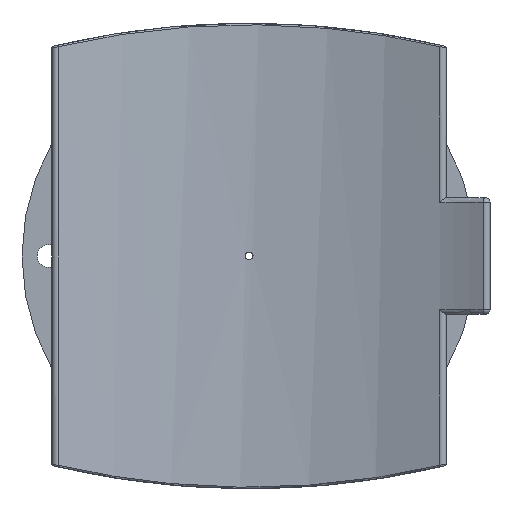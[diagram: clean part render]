
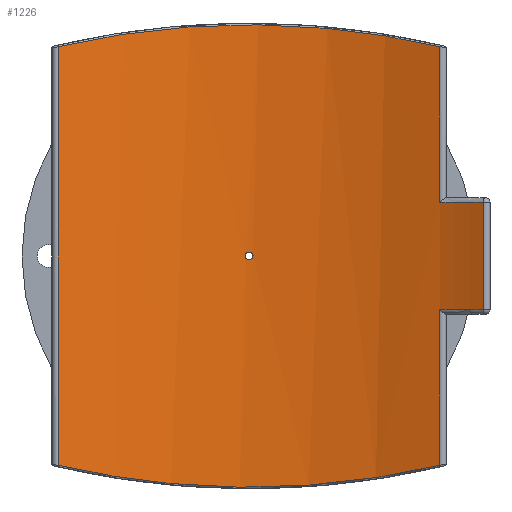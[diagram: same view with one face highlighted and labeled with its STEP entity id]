
A CAD part, front view. The second image highlights one B-rep face of the part: STEP entity #1226.
In plain terms, the highlighted cylindrical face has radius 600 mm (diameter 1200 mm), a partial arc.
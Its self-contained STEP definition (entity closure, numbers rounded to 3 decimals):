
#86=CIRCLE('',#1319,600.);
#87=CIRCLE('',#1320,600.);
#182=LINE('',#2867,#217);
#183=LINE('',#2883,#218);
#184=LINE('',#2885,#219);
#185=LINE('',#2889,#220);
#217=VECTOR('',#1537,204.004);
#218=VECTOR('',#1542,548.508);
#219=VECTOR('',#1543,204.004);
#220=VECTOR('',#1546,140.5);
#237=FACE_BOUND('',#420,.T.);
#332=FACE_OUTER_BOUND('',#419,.T.);
#419=EDGE_LOOP('',(#967,#968,#969,#970,#971,#972,#973,#974));
#420=EDGE_LOOP('',(#975));
#554=B_SPLINE_CURVE_WITH_KNOTS('',3,(#2246,#2247,#2248,#2249,#2250,#2251,
#2252,#2253,#2254,#2255),.UNSPECIFIED.,.F.,.F.,(4,1,1,1,1,1,1,4),(-52.116,
-44.671,-37.226,-29.781,-22.336,
-14.89,-7.445,0.),
 .UNSPECIFIED.);
#569=B_SPLINE_CURVE_WITH_KNOTS('',3,(#2662,#2663,#2664,#2665,#2666,#2667,
#2668,#2669,#2670,#2671),.UNSPECIFIED.,.F.,.F.,(4,1,1,1,1,1,1,4),(-52.116,
-44.671,-37.226,-29.781,-22.336,
-14.89,-7.445,0.),
 .UNSPECIFIED.);
#579=B_SPLINE_CURVE_WITH_KNOTS('',3,(#2892,#2893,#2894,#2895,#2896,#2897,
#2898,#2899,#2900,#2901,#2902,#2903,#2904,#2905,#2906,#2907,#2908,#2909,
#2910,#2911,#2912,#2913,#2914,#2915,#2916,#2917,#2918,#2919,#2920,#2921,
#2922,#2923,#2924,#2925),.UNSPECIFIED.,.T.,.F.,(4,2,2,2,2,2,2,2,2,2,2,2,
2,2,2,2,4),(0.,0.196,0.392,0.588,0.784,
0.979,1.175,1.371,1.567,1.763,
1.959,2.155,2.351,2.546,2.742,
2.938,3.134),.UNSPECIFIED.);
#599=VERTEX_POINT('',#2167);
#601=VERTEX_POINT('',#2244);
#617=VERTEX_POINT('',#2583);
#619=VERTEX_POINT('',#2660);
#628=VERTEX_POINT('',#2866);
#630=VERTEX_POINT('',#2884);
#631=VERTEX_POINT('',#2886);
#632=VERTEX_POINT('',#2888);
#633=VERTEX_POINT('',#2891);
#714=EDGE_CURVE('',#601,#599,#554,.T.);
#746=EDGE_CURVE('',#619,#617,#569,.T.);
#763=EDGE_CURVE('',#599,#628,#182,.T.);
#766=EDGE_CURVE('',#617,#601,#183,.T.);
#767=EDGE_CURVE('',#630,#619,#184,.T.);
#768=EDGE_CURVE('',#631,#630,#86,.T.);
#769=EDGE_CURVE('',#632,#631,#185,.T.);
#770=EDGE_CURVE('',#628,#632,#87,.T.);
#771=EDGE_CURVE('',#633,#633,#579,.T.);
#967=ORIENTED_EDGE('',*,*,#714,.F.);
#968=ORIENTED_EDGE('',*,*,#766,.F.);
#969=ORIENTED_EDGE('',*,*,#746,.F.);
#970=ORIENTED_EDGE('',*,*,#767,.F.);
#971=ORIENTED_EDGE('',*,*,#768,.F.);
#972=ORIENTED_EDGE('',*,*,#769,.F.);
#973=ORIENTED_EDGE('',*,*,#770,.F.);
#974=ORIENTED_EDGE('',*,*,#763,.F.);
#975=ORIENTED_EDGE('',*,*,#771,.T.);
#1167=CYLINDRICAL_SURFACE('',#1318,600.);
#1226=ADVANCED_FACE('',(#332,#237),#1167,.F.);
#1318=AXIS2_PLACEMENT_3D('',#2882,#1540,#1541);
#1319=AXIS2_PLACEMENT_3D('',#2887,#1544,#1545);
#1320=AXIS2_PLACEMENT_3D('',#2890,#1547,#1548);
#1537=DIRECTION('',(0.,0.,-1.));
#1540=DIRECTION('center_axis',(0.,0.,1.));
#1541=DIRECTION('ref_axis',(-1.,0.,0.));
#1542=DIRECTION('',(0.,0.,1.));
#1543=DIRECTION('',(0.,0.,-1.));
#1544=DIRECTION('center_axis',(0.,0.,1.));
#1545=DIRECTION('ref_axis',(0.479,0.878,0.));
#1546=DIRECTION('',(0.,0.,-1.));
#1547=DIRECTION('center_axis',(0.,0.,-1.));
#1548=DIRECTION('ref_axis',(0.479,0.878,0.));
#2167=CARTESIAN_POINT('',(249.802,545.526,274.254));
#2244=CARTESIAN_POINT('',(-249.802,545.526,274.254));
#2246=CARTESIAN_POINT('Ctrl Pts',(-249.802,545.526,274.254));
#2247=CARTESIAN_POINT('Ctrl Pts',(-227.799,555.602,279.385));
#2248=CARTESIAN_POINT('Ctrl Pts',(-182.358,573.185,288.549));
#2249=CARTESIAN_POINT('Ctrl Pts',(-110.846,591.218,298.215));
#2250=CARTESIAN_POINT('Ctrl Pts',(-37.195,600.381,303.207));
#2251=CARTESIAN_POINT('Ctrl Pts',(37.195,600.382,303.208));
#2252=CARTESIAN_POINT('Ctrl Pts',(110.845,591.217,298.214));
#2253=CARTESIAN_POINT('Ctrl Pts',(182.358,573.185,288.549));
#2254=CARTESIAN_POINT('Ctrl Pts',(227.799,555.602,279.385));
#2255=CARTESIAN_POINT('Ctrl Pts',(249.802,545.526,274.254));
#2583=CARTESIAN_POINT('',(-249.802,545.526,-274.254));
#2660=CARTESIAN_POINT('',(249.802,545.526,-274.254));
#2662=CARTESIAN_POINT('Ctrl Pts',(249.802,545.526,-274.254));
#2663=CARTESIAN_POINT('Ctrl Pts',(227.799,555.602,-279.385));
#2664=CARTESIAN_POINT('Ctrl Pts',(182.358,573.185,-288.549));
#2665=CARTESIAN_POINT('Ctrl Pts',(110.846,591.217,-298.214));
#2666=CARTESIAN_POINT('Ctrl Pts',(37.195,600.382,-303.208));
#2667=CARTESIAN_POINT('Ctrl Pts',(-37.195,600.381,-303.207));
#2668=CARTESIAN_POINT('Ctrl Pts',(-110.846,591.218,-298.215));
#2669=CARTESIAN_POINT('Ctrl Pts',(-182.358,573.185,-288.549));
#2670=CARTESIAN_POINT('Ctrl Pts',(-227.799,555.602,-279.385));
#2671=CARTESIAN_POINT('Ctrl Pts',(-249.802,545.526,-274.254));
#2866=CARTESIAN_POINT('',(249.802,545.526,70.25));
#2867=CARTESIAN_POINT('',(249.802,545.526,0.));
#2882=CARTESIAN_POINT('Origin',(0.,0.,0.));
#2883=CARTESIAN_POINT('',(-249.802,545.526,0.));
#2884=CARTESIAN_POINT('',(249.802,545.526,-70.25));
#2885=CARTESIAN_POINT('',(249.802,545.526,0.));
#2886=CARTESIAN_POINT('',(306.634,515.728,-70.25));
#2887=CARTESIAN_POINT('Origin',(0.,0.,-70.25));
#2888=CARTESIAN_POINT('',(306.634,515.728,70.25));
#2889=CARTESIAN_POINT('',(306.634,515.728,0.));
#2890=CARTESIAN_POINT('Origin',(0.,0.,70.25));
#2891=CARTESIAN_POINT('',(5.2,599.977,0.));
#2892=CARTESIAN_POINT('Ctrl Pts',(5.2,599.977,0.));
#2893=CARTESIAN_POINT('Ctrl Pts',(5.2,599.977,-0.653));
#2894=CARTESIAN_POINT('Ctrl Pts',(5.07,599.979,-1.349));
#2895=CARTESIAN_POINT('Ctrl Pts',(4.539,599.983,-2.631));
#2896=CARTESIAN_POINT('Ctrl Pts',(4.139,599.986,-3.215));
#2897=CARTESIAN_POINT('Ctrl Pts',(3.215,599.992,-4.139));
#2898=CARTESIAN_POINT('Ctrl Pts',(2.631,599.995,-4.539));
#2899=CARTESIAN_POINT('Ctrl Pts',(1.349,599.999,-5.07));
#2900=CARTESIAN_POINT('Ctrl Pts',(0.653,600.,-5.2));
#2901=CARTESIAN_POINT('Ctrl Pts',(-0.653,600.,-5.2));
#2902=CARTESIAN_POINT('Ctrl Pts',(-1.349,599.999,-5.07));
#2903=CARTESIAN_POINT('Ctrl Pts',(-2.631,599.995,-4.539));
#2904=CARTESIAN_POINT('Ctrl Pts',(-3.215,599.992,-4.139));
#2905=CARTESIAN_POINT('Ctrl Pts',(-4.139,599.986,-3.215));
#2906=CARTESIAN_POINT('Ctrl Pts',(-4.539,599.983,-2.631));
#2907=CARTESIAN_POINT('Ctrl Pts',(-5.07,599.979,-1.349));
#2908=CARTESIAN_POINT('Ctrl Pts',(-5.2,599.977,-0.653));
#2909=CARTESIAN_POINT('Ctrl Pts',(-5.2,599.977,0.653));
#2910=CARTESIAN_POINT('Ctrl Pts',(-5.07,599.979,1.349));
#2911=CARTESIAN_POINT('Ctrl Pts',(-4.539,599.983,2.631));
#2912=CARTESIAN_POINT('Ctrl Pts',(-4.139,599.986,3.215));
#2913=CARTESIAN_POINT('Ctrl Pts',(-3.215,599.992,4.139));
#2914=CARTESIAN_POINT('Ctrl Pts',(-2.631,599.995,4.539));
#2915=CARTESIAN_POINT('Ctrl Pts',(-1.349,599.999,5.07));
#2916=CARTESIAN_POINT('Ctrl Pts',(-0.653,600.,5.2));
#2917=CARTESIAN_POINT('Ctrl Pts',(0.653,600.,5.2));
#2918=CARTESIAN_POINT('Ctrl Pts',(1.349,599.999,5.07));
#2919=CARTESIAN_POINT('Ctrl Pts',(2.631,599.995,4.539));
#2920=CARTESIAN_POINT('Ctrl Pts',(3.215,599.992,4.139));
#2921=CARTESIAN_POINT('Ctrl Pts',(4.139,599.986,3.215));
#2922=CARTESIAN_POINT('Ctrl Pts',(4.539,599.983,2.631));
#2923=CARTESIAN_POINT('Ctrl Pts',(5.07,599.979,1.349));
#2924=CARTESIAN_POINT('Ctrl Pts',(5.2,599.977,0.653));
#2925=CARTESIAN_POINT('Ctrl Pts',(5.2,599.977,0.));
